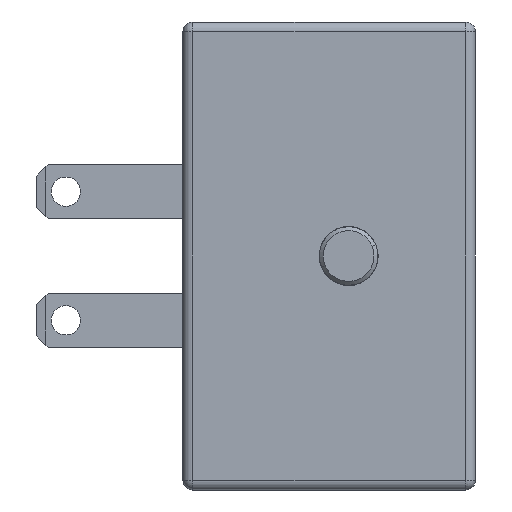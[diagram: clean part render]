
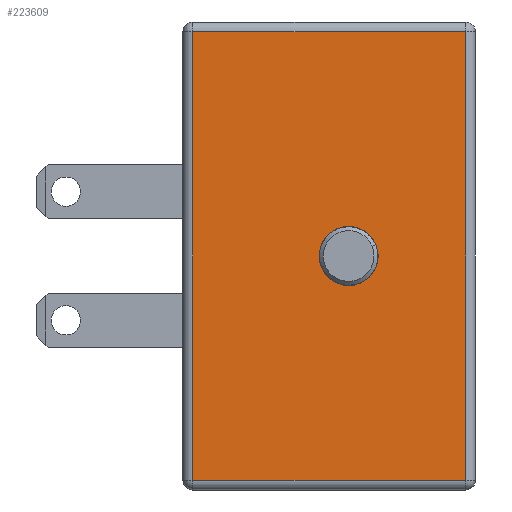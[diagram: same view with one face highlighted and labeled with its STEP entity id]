
A CAD part, left-side view. The second image highlights one B-rep face of the part: STEP entity #223609.
In plain terms, the highlighted planar face has unit normal (-1, 0, 0) as drawn and (0, 0, -1) by its records, which use the part's own axes.
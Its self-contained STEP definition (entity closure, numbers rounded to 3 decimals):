
#10133 = CARTESIAN_POINT ( 'NONE',  ( -11.5, -6.5, -37. ) ) ;
#12331 = LINE ( 'NONE', #265766, #111399 ) ;
#15895 = VERTEX_POINT ( 'NONE', #97824 ) ;
#24579 = DIRECTION ( 'NONE',  ( 0., -1., 0. ) ) ;
#26724 = CARTESIAN_POINT ( 'NONE',  ( -0.738, 1.323, -37. ) ) ;
#39185 = EDGE_CURVE ( 'NONE', #15895, #242151, #53842, .T. ) ;
#44009 = EDGE_CURVE ( 'NONE', #117519, #116943, #53010, .T. ) ;
#53010 = LINE ( 'NONE', #250257, #279736 ) ;
#53128 = EDGE_CURVE ( 'NONE', #142786, #117519, #261087, .T. ) ;
#53842 = CIRCLE ( 'NONE', #238920, 1.515 ) ;
#55629 = DIRECTION ( 'NONE',  ( 0., 1., 0. ) ) ;
#62377 = CARTESIAN_POINT ( 'NONE',  ( 12., -6.5, -37. ) ) ;
#64043 = ORIENTED_EDGE ( 'NONE', *, *, #39185, .T. ) ;
#71742 = AXIS2_PLACEMENT_3D ( 'NONE', #87841, #246273, #110604 ) ;
#79368 = ORIENTED_EDGE ( 'NONE', *, *, #44009, .T. ) ;
#84469 = CARTESIAN_POINT ( 'NONE',  ( 0., 0., -37. ) ) ;
#84482 = VERTEX_POINT ( 'NONE', #122886 ) ;
#85520 = ORIENTED_EDGE ( 'NONE', *, *, #172332, .T. ) ;
#87841 = CARTESIAN_POINT ( 'NONE',  ( 0., 0., -37. ) ) ;
#97824 = CARTESIAN_POINT ( 'NONE',  ( 0.738, -1.323, -37. ) ) ;
#101048 = CARTESIAN_POINT ( 'NONE',  ( 12., 8., -37. ) ) ;
#105699 = CARTESIAN_POINT ( 'NONE',  ( 11.5, -6., -37. ) ) ;
#107233 = DIRECTION ( 'NONE',  ( 0.487, -0.873, 0. ) ) ;
#110604 = DIRECTION ( 'NONE',  ( 0.487, -0.873, 0. ) ) ;
#111399 = VECTOR ( 'NONE', #174691, 1000. ) ;
#116943 = VERTEX_POINT ( 'NONE', #105699 ) ;
#117519 = VERTEX_POINT ( 'NONE', #214967 ) ;
#122012 = CIRCLE ( 'NONE', #71742, 1.515 ) ;
#122886 = CARTESIAN_POINT ( 'NONE',  ( -11.5, -6., -37. ) ) ;
#128986 = EDGE_CURVE ( 'NONE', #84482, #142786, #173120, .T. ) ;
#130624 = PLANE ( 'NONE',  #289577 ) ;
#131422 = ORIENTED_EDGE ( 'NONE', *, *, #53128, .T. ) ;
#138207 = EDGE_LOOP ( 'NONE', ( #64043, #263049 ) ) ;
#142786 = VERTEX_POINT ( 'NONE', #194403 ) ;
#146571 = DIRECTION ( 'NONE',  ( 1., 0., 0. ) ) ;
#153429 = DIRECTION ( 'NONE',  ( -1., 0., 0. ) ) ;
#157830 = FACE_BOUND ( 'NONE', #138207, .T. ) ;
#165284 = VECTOR ( 'NONE', #146571, 1000. ) ;
#172332 = EDGE_CURVE ( 'NONE', #116943, #84482, #12331, .T. ) ;
#173120 = LINE ( 'NONE', #10133, #286485 ) ;
#174691 = DIRECTION ( 'NONE',  ( -1., 0., 0. ) ) ;
#190881 = EDGE_LOOP ( 'NONE', ( #131422, #79368, #85520, #230565 ) ) ;
#194403 = CARTESIAN_POINT ( 'NONE',  ( -11.5, 8., -37. ) ) ;
#214967 = CARTESIAN_POINT ( 'NONE',  ( 11.5, 8., -37. ) ) ;
#223609 = ADVANCED_FACE ( 'NONE', ( #278310, #157830 ), #130624, .T. ) ;
#230565 = ORIENTED_EDGE ( 'NONE', *, *, #128986, .T. ) ;
#238920 = AXIS2_PLACEMENT_3D ( 'NONE', #84469, #242924, #107233 ) ;
#242151 = VERTEX_POINT ( 'NONE', #26724 ) ;
#242924 = DIRECTION ( 'NONE',  ( 0., 0., 1. ) ) ;
#246273 = DIRECTION ( 'NONE',  ( 0., 0., 1. ) ) ;
#250257 = CARTESIAN_POINT ( 'NONE',  ( 11.5, -6.5, -37. ) ) ;
#261087 = LINE ( 'NONE', #101048, #165284 ) ;
#263049 = ORIENTED_EDGE ( 'NONE', *, *, #276084, .T. ) ;
#265766 = CARTESIAN_POINT ( 'NONE',  ( -12., -6., -37. ) ) ;
#276084 = EDGE_CURVE ( 'NONE', #242151, #15895, #122012, .T. ) ;
#278310 = FACE_OUTER_BOUND ( 'NONE', #190881, .T. ) ;
#279736 = VECTOR ( 'NONE', #24579, 1000. ) ;
#286485 = VECTOR ( 'NONE', #55629, 1000. ) ;
#288996 = DIRECTION ( 'NONE',  ( 0., 0., -1. ) ) ;
#289577 = AXIS2_PLACEMENT_3D ( 'NONE', #62377, #288996, #153429 ) ;
